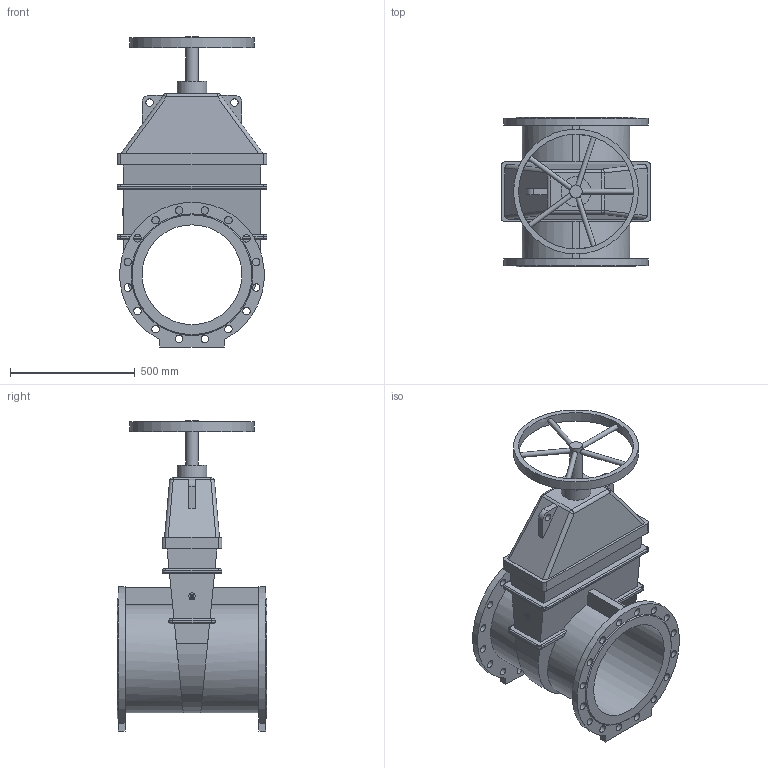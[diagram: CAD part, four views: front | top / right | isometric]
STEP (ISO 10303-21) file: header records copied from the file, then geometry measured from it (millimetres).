
FILE_DESCRIPTION(('STEP AP203'), '1');
FILE_NAME('Çàäâèæêà 47GV DN400 PN16_L600 ñ ìàõîâèêîì', '', ('UNSPECIFIED'), ('UNSPECIFIED'), 'ASCON STEP Converter 1.6', 'ASCON Math Kernel', '');
FILE_SCHEMA(('CONFIG_CONTROL_DESIGN'));
Length unit declared in the file: millimetre
Bounding box: 600 x 600 x 1243 mm (x, y, z)
Volume: 78694822 mm3; surface area: 3505595.9 mm2
Topology: 1 solids, 1 shells, 201 faces, 513 edges, 324 vertices
Faces by surface type: cylinder 98, plane 81, bspline 12, torus 8, cone 2
Full cylindrical faces by diameter (mm): 20 x5, 30 x34, 50 x1, 120 x1, 400 x1, 460 x1, 500 x1
Entity records: 10028 total; most frequent: CARTESIAN_POINT 3602, DIRECTION 956, ORIENTED_EDGE 924, EDGE_CURVE 462, AXIS2_PLACEMENT_3D 364, EDGE_LOOP 342, VERTEX_POINT 324, FACE_BOUND 251
